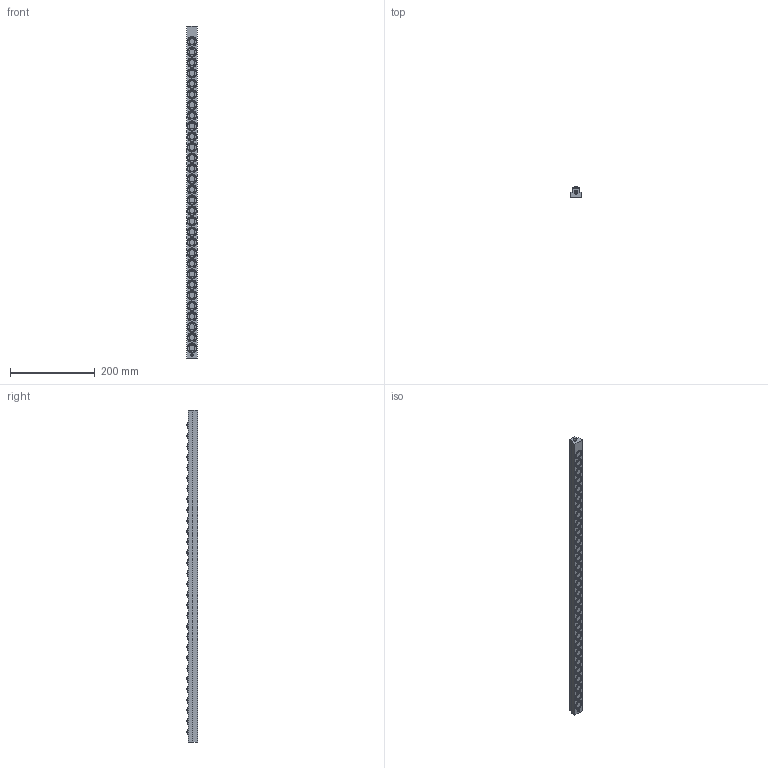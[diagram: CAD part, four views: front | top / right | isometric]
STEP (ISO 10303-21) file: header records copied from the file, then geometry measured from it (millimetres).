
FILE_DESCRIPTION (( 'STEP AP203' ), '1' );
FILE_NAME ('PVL13T-30.STEP', '2016-02-18T04:16:24', ( '' ), ( '' ), 'SwSTEP 2.0', 'SolidWorks 2013', '' );
FILE_SCHEMA (( 'CONFIG_CONTROL_DESIGN' ));
Length unit declared in the file: millimetre
Products named in the file (1): PVL13T-30
Bounding box: 25 x 26.26 x 785 mm (x, y, z)
Volume: 359560.3 mm3; surface area: 83344.6 mm2
Topology: 2 solids, 2 shells, 880 faces, 2102 edges, 1408 vertices
Faces by surface type: cylinder 490, plane 262, torus 60, sphere 60, cone 8
Entity records: 26353 total; most frequent: DIRECTION 5208, CARTESIAN_POINT 4387, ORIENTED_EDGE 4196, AXIS2_PLACEMENT_3D 2229, EDGE_CURVE 2098, VERTEX_POINT 1408, CIRCLE 1348, EDGE_LOOP 1068
